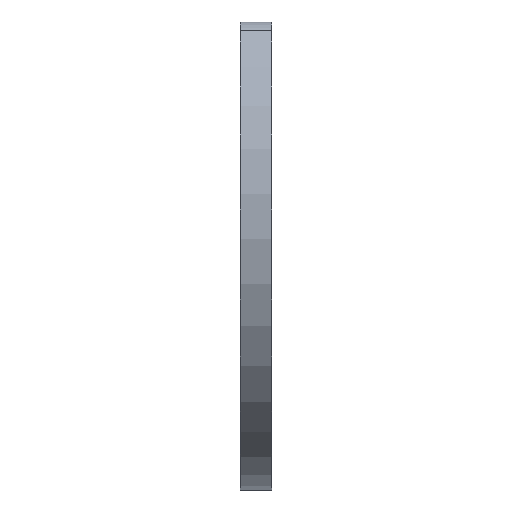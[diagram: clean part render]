
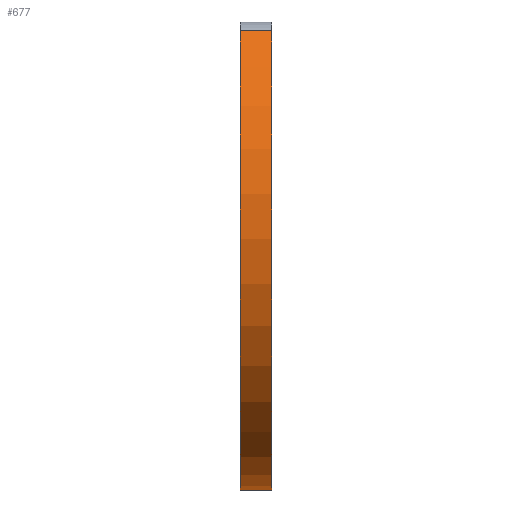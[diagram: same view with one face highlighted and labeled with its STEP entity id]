
A CAD part, left-side view. The second image highlights one B-rep face of the part: STEP entity #677.
In plain terms, the highlighted cylindrical face has radius 6.15 mm (diameter 12.3 mm), a partial arc.
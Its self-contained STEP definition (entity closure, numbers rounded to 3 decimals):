
#1 = DIRECTION ( 'NONE',  ( 0., 1., 0. ) ) ;
#33 = VERTEX_POINT ( 'NONE', #885 ) ;
#74 = DIRECTION ( 'NONE',  ( 0., 0., 1. ) ) ;
#83 = VERTEX_POINT ( 'NONE', #330 ) ;
#86 = ORIENTED_EDGE ( 'NONE', *, *, #491, .T. ) ;
#92 = VERTEX_POINT ( 'NONE', #109 ) ;
#109 = CARTESIAN_POINT ( 'NONE',  ( 0., -0.35, -6.15 ) ) ;
#129 = VECTOR ( 'NONE', #197, 1000. ) ;
#136 = EDGE_LOOP ( 'NONE', ( #244, #158, #86, #913 ) ) ;
#158 = ORIENTED_EDGE ( 'NONE', *, *, #331, .T. ) ;
#172 = DIRECTION ( 'NONE',  ( 0., -1., 0. ) ) ;
#197 = DIRECTION ( 'NONE',  ( 0., -1., 0. ) ) ;
#221 = CARTESIAN_POINT ( 'NONE',  ( 0., -0.35, 0. ) ) ;
#224 = AXIS2_PLACEMENT_3D ( 'NONE', #673, #172, #390 ) ;
#244 = ORIENTED_EDGE ( 'NONE', *, *, #482, .F. ) ;
#283 = DIRECTION ( 'NONE',  ( 0., 0., 1. ) ) ;
#330 = CARTESIAN_POINT ( 'NONE',  ( 0., 0.35, -6.15 ) ) ;
#331 = EDGE_CURVE ( 'NONE', #83, #92, #786, .T. ) ;
#361 = DIRECTION ( 'NONE',  ( 0., 1., 0. ) ) ;
#363 = CARTESIAN_POINT ( 'NONE',  ( 0., 0.35, 0. ) ) ;
#389 = EDGE_CURVE ( 'NONE', #873, #33, #521, .T. ) ;
#390 = DIRECTION ( 'NONE',  ( 0., 0., -1. ) ) ;
#403 = CARTESIAN_POINT ( 'NONE',  ( -4.547, -0.35, 4.141 ) ) ;
#440 = CIRCLE ( 'NONE', #829, 6.15 ) ;
#482 = EDGE_CURVE ( 'NONE', #83, #33, #817, .T. ) ;
#491 = EDGE_CURVE ( 'NONE', #92, #873, #440, .T. ) ;
#521 = LINE ( 'NONE', #638, #648 ) ;
#638 = CARTESIAN_POINT ( 'NONE',  ( -4.547, 0.35, 4.141 ) ) ;
#648 = VECTOR ( 'NONE', #361, 1000. ) ;
#673 = CARTESIAN_POINT ( 'NONE',  ( 0., 0.35, 0. ) ) ;
#677 = ADVANCED_FACE ( 'NONE', ( #833 ), #780, .T. ) ;
#724 = AXIS2_PLACEMENT_3D ( 'NONE', #363, #1, #74 ) ;
#780 = CYLINDRICAL_SURFACE ( 'NONE', #224, 6.15 ) ;
#786 = LINE ( 'NONE', #828, #129 ) ;
#794 = DIRECTION ( 'NONE',  ( 0., 1., 0. ) ) ;
#817 = CIRCLE ( 'NONE', #724, 6.15 ) ;
#828 = CARTESIAN_POINT ( 'NONE',  ( 0., 0.35, -6.15 ) ) ;
#829 = AXIS2_PLACEMENT_3D ( 'NONE', #221, #794, #283 ) ;
#833 = FACE_OUTER_BOUND ( 'NONE', #136, .T. ) ;
#873 = VERTEX_POINT ( 'NONE', #403 ) ;
#885 = CARTESIAN_POINT ( 'NONE',  ( -4.547, 0.35, 4.141 ) ) ;
#913 = ORIENTED_EDGE ( 'NONE', *, *, #389, .T. ) ;
